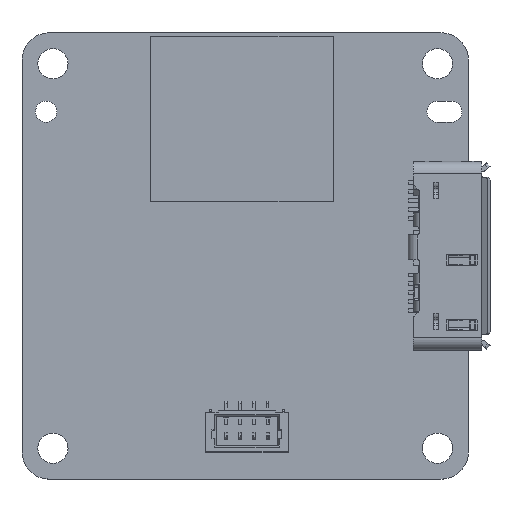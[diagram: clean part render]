
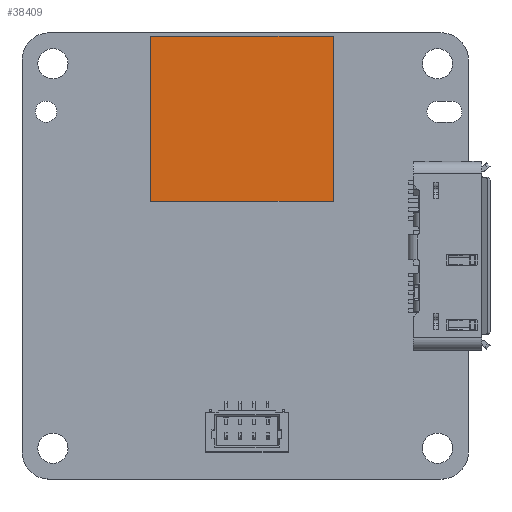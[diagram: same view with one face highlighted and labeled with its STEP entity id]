
A CAD part, top view. The second image highlights one B-rep face of the part: STEP entity #38409.
In plain terms, the highlighted planar face has unit normal (0, 0, 1).
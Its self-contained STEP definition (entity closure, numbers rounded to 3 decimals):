
#14051=DIRECTION('',(0.,-1.,0.));
#14052=VECTOR('',#14051,12.);
#14053=CARTESIAN_POINT('',(6.406,15.992,9.616));
#14054=LINE('',#14053,#14052);
#14055=DIRECTION('',(-1.,0.,0.));
#14056=VECTOR('',#14055,13.3);
#14057=CARTESIAN_POINT('',(6.406,3.992,9.616));
#14058=LINE('',#14057,#14056);
#14059=DIRECTION('',(0.,1.,0.));
#14060=VECTOR('',#14059,12.);
#14061=CARTESIAN_POINT('',(-6.894,3.992,9.616));
#14062=LINE('',#14061,#14060);
#14063=DIRECTION('',(1.,0.,0.));
#14064=VECTOR('',#14063,13.3);
#14065=CARTESIAN_POINT('',(-6.894,15.992,9.616));
#14066=LINE('',#14065,#14064);
#19944=CARTESIAN_POINT('',(6.406,15.992,9.616));
#19945=CARTESIAN_POINT('',(6.406,3.992,9.616));
#19946=VERTEX_POINT('',#19944);
#19947=VERTEX_POINT('',#19945);
#19948=CARTESIAN_POINT('',(-6.894,3.992,9.616));
#19949=VERTEX_POINT('',#19948);
#19950=CARTESIAN_POINT('',(-6.894,15.992,9.616));
#19951=VERTEX_POINT('',#19950);
#38398=CARTESIAN_POINT('',(-0.244,9.992,9.616));
#38399=DIRECTION('',(0.,0.,1.));
#38400=DIRECTION('',(-1.,0.,0.));
#38401=AXIS2_PLACEMENT_3D('',#38398,#38399,#38400);
#38402=PLANE('',#38401);
#38403=ORIENTED_EDGE('',*,*,#38350,.T.);
#38404=ORIENTED_EDGE('',*,*,#38365,.T.);
#38405=ORIENTED_EDGE('',*,*,#38379,.T.);
#38406=ORIENTED_EDGE('',*,*,#38392,.T.);
#38407=EDGE_LOOP('',(#38403,#38404,#38405,#38406));
#38408=FACE_OUTER_BOUND('',#38407,.F.);
#38409=ADVANCED_FACE('',(#38408),#38402,.T.);
#38350=EDGE_CURVE('',#19946,#19947,#14054,.T.);
#38365=EDGE_CURVE('',#19947,#19949,#14058,.T.);
#38379=EDGE_CURVE('',#19949,#19951,#14062,.T.);
#38392=EDGE_CURVE('',#19951,#19946,#14066,.T.);
